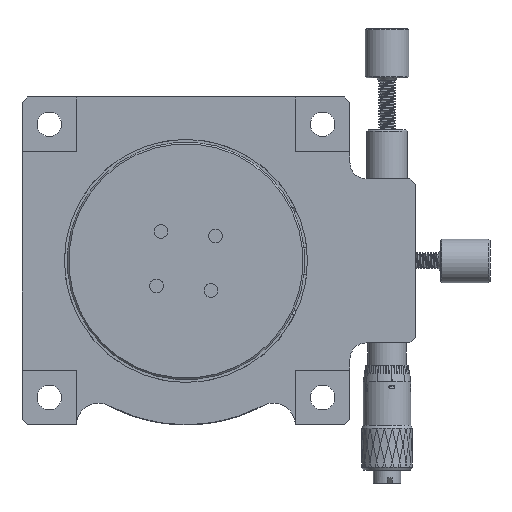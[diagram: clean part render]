
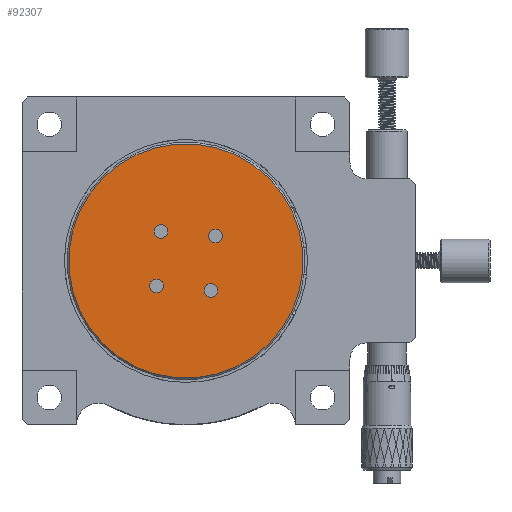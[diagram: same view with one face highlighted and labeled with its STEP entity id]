
A CAD part, front view. The second image highlights one B-rep face of the part: STEP entity #92307.
In plain terms, the highlighted planar face has unit normal (0, -1, 0).
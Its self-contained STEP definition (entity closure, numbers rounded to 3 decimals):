
#2262 = DIRECTION ( 'NONE',  ( -0.083, 0., -0.997 ) ) ;
#3381 = CARTESIAN_POINT ( 'NONE',  ( -1.33, 0.2, -4.154 ) ) ;
#4805 = PLANE ( 'NONE',  #24491 ) ;
#5975 = DIRECTION ( 'NONE',  ( 0., -1., 0. ) ) ;
#7267 = EDGE_CURVE ( 'NONE', #38662, #38662, #10389, .T. ) ;
#8448 = CARTESIAN_POINT ( 'NONE',  ( -0.601, 0.2, 4.566 ) ) ;
#8714 = DIRECTION ( 'NONE',  ( 0., -1., 0. ) ) ;
#9720 = AXIS2_PLACEMENT_3D ( 'NONE', #8448, #53653, #70988 ) ;
#10389 = CIRCLE ( 'NONE', #13562, 1.25 ) ;
#11558 = EDGE_CURVE ( 'NONE', #65897, #65897, #88635, .T. ) ;
#11769 = FACE_OUTER_BOUND ( 'NONE', #36116, .T. ) ;
#11873 = EDGE_LOOP ( 'NONE', ( #76025 ) ) ;
#12289 = CARTESIAN_POINT ( 'NONE',  ( -0.497, 0.2, 5.812 ) ) ;
#13059 = EDGE_LOOP ( 'NONE', ( #66929 ) ) ;
#13562 = AXIS2_PLACEMENT_3D ( 'NONE', #56904, #17218, #70829 ) ;
#16097 = CIRCLE ( 'NONE', #9720, 1.25 ) ;
#17218 = DIRECTION ( 'NONE',  ( 0., -1., 0. ) ) ;
#20208 = EDGE_CURVE ( 'NONE', #41123, #41123, #16097, .T. ) ;
#20960 = CARTESIAN_POINT ( 'NONE',  ( -10.462, 0.2, 6.645 ) ) ;
#23024 = CIRCLE ( 'NONE', #78495, 1.25 ) ;
#23167 = DIRECTION ( 'NONE',  ( 0., -1., 0. ) ) ;
#24491 = AXIS2_PLACEMENT_3D ( 'NONE', #72346, #34610, #95145 ) ;
#27928 = VERTEX_POINT ( 'NONE', #20960 ) ;
#30123 = DIRECTION ( 'NONE',  ( 0.083, 0., 0.997 ) ) ;
#30385 = ORIENTED_EDGE ( 'NONE', *, *, #93932, .F. ) ;
#34433 = ORIENTED_EDGE ( 'NONE', *, *, #92575, .T. ) ;
#34610 = DIRECTION ( 'NONE',  ( 0., 1., 0. ) ) ;
#35091 = FACE_BOUND ( 'NONE', #11873, .T. ) ;
#36116 = EDGE_LOOP ( 'NONE', ( #34433 ) ) ;
#38662 = VERTEX_POINT ( 'NONE', #77363 ) ;
#41123 = VERTEX_POINT ( 'NONE', #12289 ) ;
#41855 = VERTEX_POINT ( 'NONE', #72130 ) ;
#42065 = FACE_BOUND ( 'NONE', #42775, .T. ) ;
#42775 = EDGE_LOOP ( 'NONE', ( #74913 ) ) ;
#43511 = FACE_BOUND ( 'NONE', #77803, .T. ) ;
#44712 = DIRECTION ( 'NONE',  ( 0.083, 0., 0.997 ) ) ;
#50700 = CARTESIAN_POINT ( 'NONE',  ( -10.566, 0.2, 5.399 ) ) ;
#52469 = CARTESIAN_POINT ( 'NONE',  ( -1.434, 0.2, -5.399 ) ) ;
#53653 = DIRECTION ( 'NONE',  ( 0., -1., 0. ) ) ;
#56904 = CARTESIAN_POINT ( 'NONE',  ( -11.399, 0.2, -4.566 ) ) ;
#57934 = FACE_BOUND ( 'NONE', #13059, .T. ) ;
#64197 = AXIS2_PLACEMENT_3D ( 'NONE', #86116, #8714, #2262 ) ;
#65897 = VERTEX_POINT ( 'NONE', #3381 ) ;
#66929 = ORIENTED_EDGE ( 'NONE', *, *, #7267, .F. ) ;
#70829 = DIRECTION ( 'NONE',  ( 0.083, 0., 0.997 ) ) ;
#70988 = DIRECTION ( 'NONE',  ( 0.083, 0., 0.997 ) ) ;
#72130 = CARTESIAN_POINT ( 'NONE',  ( -7.787, 0.2, -21.375 ) ) ;
#72346 = CARTESIAN_POINT ( 'NONE',  ( -6., 0.2, 0. ) ) ;
#74913 = ORIENTED_EDGE ( 'NONE', *, *, #20208, .F. ) ;
#76025 = ORIENTED_EDGE ( 'NONE', *, *, #11558, .F. ) ;
#77363 = CARTESIAN_POINT ( 'NONE',  ( -11.295, 0.2, -3.32 ) ) ;
#77803 = EDGE_LOOP ( 'NONE', ( #30385 ) ) ;
#78495 = AXIS2_PLACEMENT_3D ( 'NONE', #50700, #5975, #44712 ) ;
#86116 = CARTESIAN_POINT ( 'NONE',  ( -6., 0.2, 0. ) ) ;
#88635 = CIRCLE ( 'NONE', #89990, 1.25 ) ;
#89990 = AXIS2_PLACEMENT_3D ( 'NONE', #52469, #23167, #30123 ) ;
#92307 = ADVANCED_FACE ( 'NONE', ( #11769, #35091, #57934, #43511, #42065 ), #4805, .F. ) ;
#92575 = EDGE_CURVE ( 'NONE', #41855, #41855, #95840, .T. ) ;
#93932 = EDGE_CURVE ( 'NONE', #27928, #27928, #23024, .T. ) ;
#95145 = DIRECTION ( 'NONE',  ( -0.083, 0., -0.997 ) ) ;
#95840 = CIRCLE ( 'NONE', #64197, 21.45 ) ;
